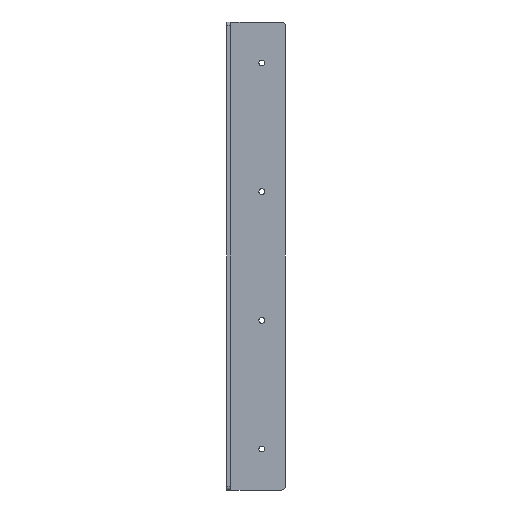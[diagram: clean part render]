
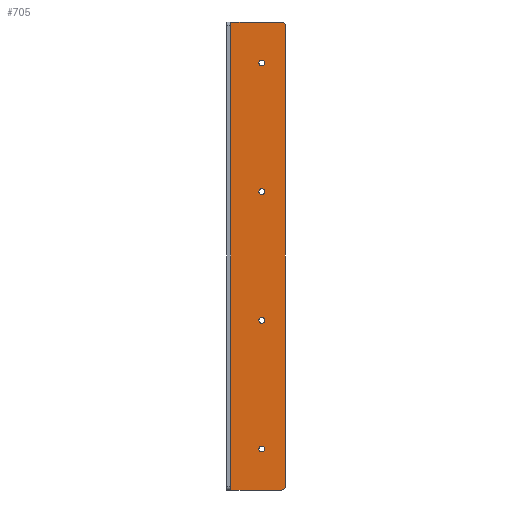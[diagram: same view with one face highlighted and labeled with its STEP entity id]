
A CAD part, left-side view. The second image highlights one B-rep face of the part: STEP entity #705.
In plain terms, the highlighted planar face has unit normal (-1, 0, 0).
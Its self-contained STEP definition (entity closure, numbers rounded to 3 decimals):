
#23 = CARTESIAN_POINT ( 'NONE',  ( 0., -24.5, 255. ) ) ;
#24 = VERTEX_POINT ( 'NONE', #965 ) ;
#44 = CIRCLE ( 'NONE', #288, 2.5 ) ;
#51 = AXIS2_PLACEMENT_3D ( 'NONE', #415, #786, #1170 ) ;
#53 = DIRECTION ( 'NONE',  ( 1., 0., 0. ) ) ;
#56 = CARTESIAN_POINT ( 'NONE',  ( 0., -24.5, 365. ) ) ;
#84 = CARTESIAN_POINT ( 'NONE',  ( 0., -44., 0. ) ) ;
#92 = DIRECTION ( 'NONE',  ( 1., 0., 0. ) ) ;
#94 = CARTESIAN_POINT ( 'NONE',  ( 0., -0.5, 400. ) ) ;
#110 = CARTESIAN_POINT ( 'NONE',  ( 0., -29.5, 35. ) ) ;
#131 = DIRECTION ( 'NONE',  ( 0., 1., 0. ) ) ;
#133 = EDGE_CURVE ( 'NONE', #1125, #210, #1056, .T. ) ;
#138 = VERTEX_POINT ( 'NONE', #110 ) ;
#146 = CARTESIAN_POINT ( 'NONE',  ( 0., -27., 365. ) ) ;
#154 = EDGE_LOOP ( 'NONE', ( #792, #655, #580, #269, #663, #302 ) ) ;
#165 = LINE ( 'NONE', #1019, #956 ) ;
#194 = VECTOR ( 'NONE', #602, 1000. ) ;
#210 = VERTEX_POINT ( 'NONE', #615 ) ;
#223 = CARTESIAN_POINT ( 'NONE',  ( 0., -47., 400. ) ) ;
#238 = AXIS2_PLACEMENT_3D ( 'NONE', #266, #732, #659 ) ;
#247 = FACE_BOUND ( 'NONE', #377, .T. ) ;
#250 = CIRCLE ( 'NONE', #1161, 2.5 ) ;
#254 = EDGE_CURVE ( 'NONE', #400, #210, #653, .T. ) ;
#258 = ORIENTED_EDGE ( 'NONE', *, *, #1096, .T. ) ;
#259 = DIRECTION ( 'NONE',  ( 0., 1., 0. ) ) ;
#266 = CARTESIAN_POINT ( 'NONE',  ( 0., -27., 255. ) ) ;
#269 = ORIENTED_EDGE ( 'NONE', *, *, #872, .T. ) ;
#277 = DIRECTION ( 'NONE',  ( 0., 1., 0. ) ) ;
#288 = AXIS2_PLACEMENT_3D ( 'NONE', #893, #613, #131 ) ;
#302 = ORIENTED_EDGE ( 'NONE', *, *, #1035, .T. ) ;
#303 = CARTESIAN_POINT ( 'NONE',  ( 0., -24.5, 35. ) ) ;
#315 = ORIENTED_EDGE ( 'NONE', *, *, #373, .T. ) ;
#322 = AXIS2_PLACEMENT_3D ( 'NONE', #522, #53, #1151 ) ;
#323 = CARTESIAN_POINT ( 'NONE',  ( 0., -29.5, 255. ) ) ;
#324 = ORIENTED_EDGE ( 'NONE', *, *, #384, .T. ) ;
#357 = FACE_BOUND ( 'NONE', #598, .T. ) ;
#359 = CIRCLE ( 'NONE', #238, 2.5 ) ;
#361 = CARTESIAN_POINT ( 'NONE',  ( 0., -27., 35. ) ) ;
#368 = VERTEX_POINT ( 'NONE', #1065 ) ;
#373 = EDGE_CURVE ( 'NONE', #749, #853, #767, .T. ) ;
#377 = EDGE_LOOP ( 'NONE', ( #991, #1119 ) ) ;
#383 = VERTEX_POINT ( 'NONE', #449 ) ;
#384 = EDGE_CURVE ( 'NONE', #853, #749, #359, .T. ) ;
#387 = EDGE_CURVE ( 'NONE', #368, #24, #165, .T. ) ;
#395 = CARTESIAN_POINT ( 'NONE',  ( 0., -47., 397. ) ) ;
#398 = VECTOR ( 'NONE', #654, 1000. ) ;
#400 = VERTEX_POINT ( 'NONE', #84 ) ;
#415 = CARTESIAN_POINT ( 'NONE',  ( 0., -44., 3. ) ) ;
#431 = DIRECTION ( 'NONE',  ( 1., 0., 0. ) ) ;
#439 = EDGE_CURVE ( 'NONE', #1094, #400, #739, .T. ) ;
#449 = CARTESIAN_POINT ( 'NONE',  ( 0., -24.5, 145. ) ) ;
#450 = DIRECTION ( 'NONE',  ( 0., 1., 0. ) ) ;
#453 = FACE_BOUND ( 'NONE', #905, .T. ) ;
#464 = DIRECTION ( 'NONE',  ( 0., 1., 0. ) ) ;
#470 = ORIENTED_EDGE ( 'NONE', *, *, #595, .T. ) ;
#475 = VECTOR ( 'NONE', #1175, 1000. ) ;
#482 = AXIS2_PLACEMENT_3D ( 'NONE', #754, #748, #277 ) ;
#499 = EDGE_LOOP ( 'NONE', ( #315, #324 ) ) ;
#514 = CIRCLE ( 'NONE', #535, 2.5 ) ;
#520 = DIRECTION ( 'NONE',  ( 0., 1., 0. ) ) ;
#522 = CARTESIAN_POINT ( 'NONE',  ( 0., -27., 255. ) ) ;
#535 = AXIS2_PLACEMENT_3D ( 'NONE', #361, #569, #450 ) ;
#551 = CARTESIAN_POINT ( 'NONE',  ( 0., -0.5, 400. ) ) ;
#558 = VERTEX_POINT ( 'NONE', #303 ) ;
#560 = CIRCLE ( 'NONE', #482, 2.5 ) ;
#566 = EDGE_CURVE ( 'NONE', #558, #138, #44, .T. ) ;
#569 = DIRECTION ( 'NONE',  ( 1., 0., 0. ) ) ;
#576 = EDGE_CURVE ( 'NONE', #765, #927, #725, .T. ) ;
#580 = ORIENTED_EDGE ( 'NONE', *, *, #133, .F. ) ;
#585 = CARTESIAN_POINT ( 'NONE',  ( 0., -29.5, 365. ) ) ;
#595 = EDGE_CURVE ( 'NONE', #996, #383, #878, .T. ) ;
#598 = EDGE_LOOP ( 'NONE', ( #687, #730 ) ) ;
#602 = DIRECTION ( 'NONE',  ( 0., 0., -1. ) ) ;
#613 = DIRECTION ( 'NONE',  ( 1., 0., 0. ) ) ;
#615 = CARTESIAN_POINT ( 'NONE',  ( 0., -47., 3. ) ) ;
#630 = PLANE ( 'NONE',  #743 ) ;
#646 = CARTESIAN_POINT ( 'NONE',  ( 0., -0.5, 0. ) ) ;
#653 = CIRCLE ( 'NONE', #51, 3. ) ;
#654 = DIRECTION ( 'NONE',  ( 0., 0., -1. ) ) ;
#655 = ORIENTED_EDGE ( 'NONE', *, *, #254, .T. ) ;
#659 = DIRECTION ( 'NONE',  ( 0., 1., 0. ) ) ;
#663 = ORIENTED_EDGE ( 'NONE', *, *, #387, .F. ) ;
#686 = AXIS2_PLACEMENT_3D ( 'NONE', #146, #431, #520 ) ;
#687 = ORIENTED_EDGE ( 'NONE', *, *, #750, .T. ) ;
#705 = ADVANCED_FACE ( 'NONE', ( #357, #1010, #453, #247, #1174 ), #630, .F. ) ;
#711 = DIRECTION ( 'NONE',  ( 1., 0., 0. ) ) ;
#725 = CIRCLE ( 'NONE', #686, 2.5 ) ;
#730 = ORIENTED_EDGE ( 'NONE', *, *, #576, .T. ) ;
#732 = DIRECTION ( 'NONE',  ( 1., 0., 0. ) ) ;
#733 = CARTESIAN_POINT ( 'NONE',  ( 0., -0.5, 0. ) ) ;
#739 = LINE ( 'NONE', #646, #475 ) ;
#743 = AXIS2_PLACEMENT_3D ( 'NONE', #94, #985, #259 ) ;
#748 = DIRECTION ( 'NONE',  ( 1., 0., 0. ) ) ;
#749 = VERTEX_POINT ( 'NONE', #23 ) ;
#750 = EDGE_CURVE ( 'NONE', #927, #765, #560, .T. ) ;
#754 = CARTESIAN_POINT ( 'NONE',  ( 0., -27., 365. ) ) ;
#758 = LINE ( 'NONE', #551, #398 ) ;
#765 = VERTEX_POINT ( 'NONE', #585 ) ;
#767 = CIRCLE ( 'NONE', #322, 2.5 ) ;
#775 = CARTESIAN_POINT ( 'NONE',  ( 0., -44., 397. ) ) ;
#786 = DIRECTION ( 'NONE',  ( -1., 0., 0. ) ) ;
#792 = ORIENTED_EDGE ( 'NONE', *, *, #439, .T. ) ;
#793 = CARTESIAN_POINT ( 'NONE',  ( 0., -27., 145. ) ) ;
#795 = CIRCLE ( 'NONE', #1015, 3. ) ;
#853 = VERTEX_POINT ( 'NONE', #323 ) ;
#872 = EDGE_CURVE ( 'NONE', #1125, #24, #795, .T. ) ;
#878 = CIRCLE ( 'NONE', #1001, 2.5 ) ;
#886 = DIRECTION ( 'NONE',  ( 0., 1., 0. ) ) ;
#893 = CARTESIAN_POINT ( 'NONE',  ( 0., -27., 35. ) ) ;
#905 = EDGE_LOOP ( 'NONE', ( #258, #470 ) ) ;
#927 = VERTEX_POINT ( 'NONE', #56 ) ;
#956 = VECTOR ( 'NONE', #999, 1000. ) ;
#965 = CARTESIAN_POINT ( 'NONE',  ( 0., -44., 400. ) ) ;
#985 = DIRECTION ( 'NONE',  ( 1., 0., 0. ) ) ;
#991 = ORIENTED_EDGE ( 'NONE', *, *, #566, .T. ) ;
#996 = VERTEX_POINT ( 'NONE', #1187 ) ;
#999 = DIRECTION ( 'NONE',  ( 0., -1., 0. ) ) ;
#1001 = AXIS2_PLACEMENT_3D ( 'NONE', #793, #711, #1164 ) ;
#1010 = FACE_BOUND ( 'NONE', #499, .T. ) ;
#1015 = AXIS2_PLACEMENT_3D ( 'NONE', #775, #1176, #886 ) ;
#1019 = CARTESIAN_POINT ( 'NONE',  ( 0., -0.5, 400. ) ) ;
#1035 = EDGE_CURVE ( 'NONE', #368, #1094, #758, .T. ) ;
#1046 = EDGE_CURVE ( 'NONE', #138, #558, #514, .T. ) ;
#1056 = LINE ( 'NONE', #223, #194 ) ;
#1065 = CARTESIAN_POINT ( 'NONE',  ( 0., -0.5, 400. ) ) ;
#1093 = CARTESIAN_POINT ( 'NONE',  ( 0., -27., 145. ) ) ;
#1094 = VERTEX_POINT ( 'NONE', #733 ) ;
#1096 = EDGE_CURVE ( 'NONE', #383, #996, #250, .T. ) ;
#1119 = ORIENTED_EDGE ( 'NONE', *, *, #1046, .T. ) ;
#1125 = VERTEX_POINT ( 'NONE', #395 ) ;
#1151 = DIRECTION ( 'NONE',  ( 0., 1., 0. ) ) ;
#1161 = AXIS2_PLACEMENT_3D ( 'NONE', #1093, #92, #464 ) ;
#1164 = DIRECTION ( 'NONE',  ( 0., 1., 0. ) ) ;
#1170 = DIRECTION ( 'NONE',  ( 0., 1., 0. ) ) ;
#1174 = FACE_OUTER_BOUND ( 'NONE', #154, .T. ) ;
#1175 = DIRECTION ( 'NONE',  ( 0., -1., 0. ) ) ;
#1176 = DIRECTION ( 'NONE',  ( -1., 0., 0. ) ) ;
#1187 = CARTESIAN_POINT ( 'NONE',  ( 0., -29.5, 145. ) ) ;
